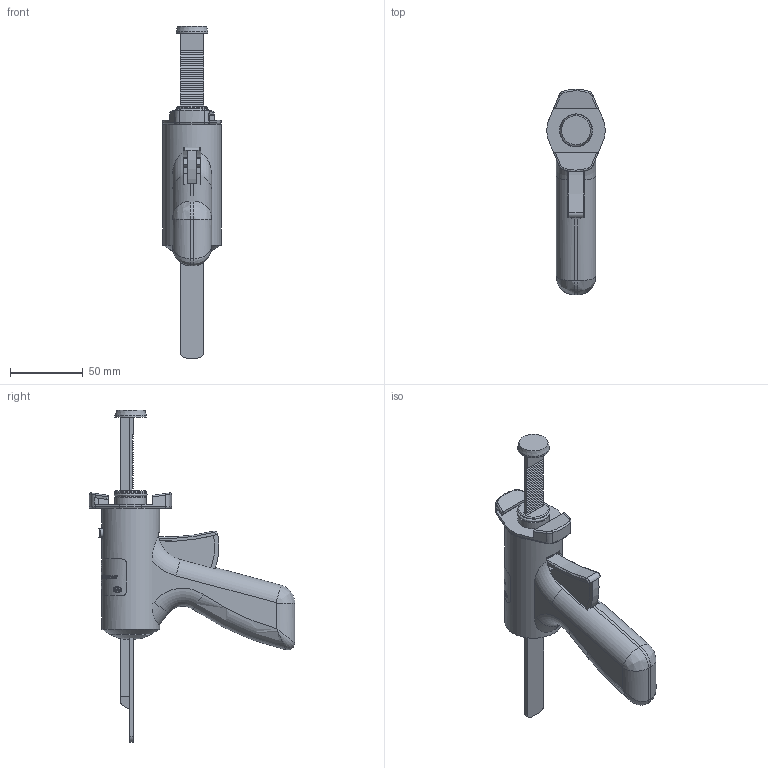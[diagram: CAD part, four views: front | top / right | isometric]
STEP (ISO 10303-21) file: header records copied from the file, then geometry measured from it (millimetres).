
FILE_DESCRIPTION((''),'2;1');
FILE_NAME('C:\3D Projects\1544934 30ml Manual Syringe Dispenser\1544934 30ml Manual Syringe Dispenser.stp','2011-03-02T13:09:24',('patch'),(''),'Autodesk Inventor 2011','Autodesk Inventor 2011','');
FILE_SCHEMA(('AUTOMOTIVE_DESIGN { 1 0 10303 214 1 1 1 1 }'));
Length unit declared in the file: inch
Products named in the file (6): 1544934 30ml Manual Syringe Dispenser; 8902768 Manual Syringe Dispenser Sub-Assembly; 8902768 Applicator With Label; 8902768 Applicator Cartridge Retainer; 8902768 O-Ring; 8902769 Plunger 30ml
Assembly tree (5 placements, depth 3):
  1544934 30ml Manual Syringe Dispenser
    8902768 Manual Syringe Dispenser Sub-Assembly
      8902768 Applicator With Label
      8902768 Applicator Cartridge Retainer
      8902768 O-Ring
    8902769 Plunger 30ml
Bounding box: 40.18 x 141.76 x 228.98 mm (x, y, z)
Volume: 213955.5 mm3; surface area: 52924.9 mm2
Topology: 5 solids, 5 shells, 1850 faces, 5143 edges, 3410 vertices
Faces by surface type: bspline 1051, plane 594, cylinder 180, torus 22, sphere 2, cone 1
Full cylindrical faces by diameter (mm): 19.34 x1, 21.75 x2, 21.996 x1, 29.007 x1, 40.005 x1
Entity records: 242577 total; most frequent: CARTESIAN_POINT 201059, ORIENTED_EDGE 10244, EDGE_CURVE 5122, DIRECTION 4743, VERTEX_POINT 3403, B_SPLINE_CURVE_WITH_KNOTS 2415, VECTOR 2291, LINE 2291
